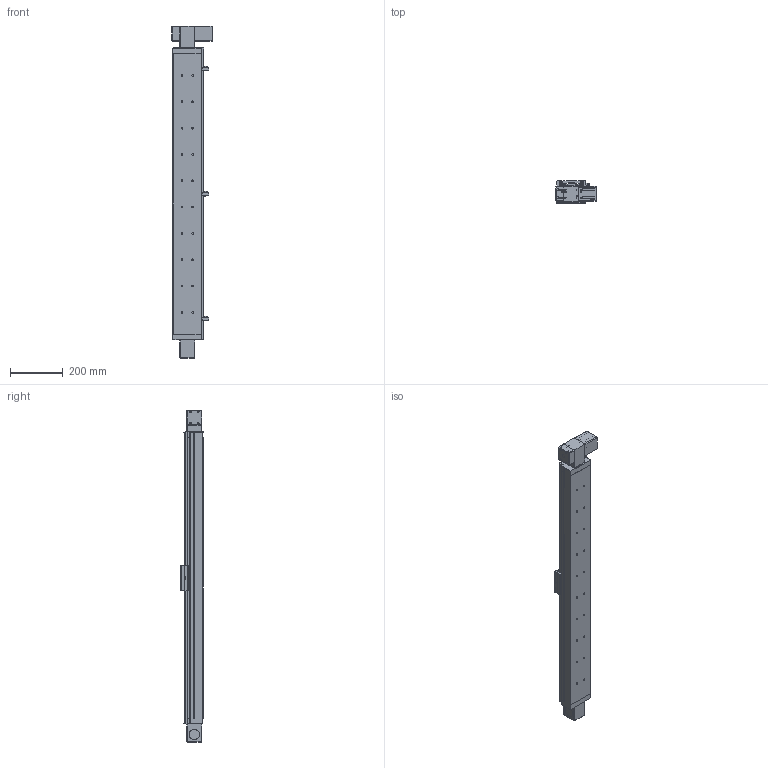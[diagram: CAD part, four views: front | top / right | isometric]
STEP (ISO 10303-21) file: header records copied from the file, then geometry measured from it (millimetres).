
FILE_DESCRIPTION((''),'2;1');
FILE_NAME('E:\uia actuator\UIA actuator 3d- 2015\Belt drive actuator\UIA110BR12(15)DC\UIA110BR12(15)DC-STEP FILE\UIA110BR12(15) stp file 13May16\UIA110BR12(15)DC-950-M23-P13-C10-S.stp','2016-05-13T16:18:23',('h029'),(''),'Autodesk Inventor 11','Autodesk Inventor 11','');
FILE_SCHEMA(('AUTOMOTIVE_DESIGN { 1 0 10303 214 1 1 1 1 }'));
Length unit declared in the file: millimetre
Products named in the file (11): UIA110BR12(15)DC-950; UIA110BR12(15)DC-950-body; UIA110BR12(15)DC-950-Sensor rail; UIA110B-Carriage; UIA110B- Sensor Flag; UIA110B-Cover; SOH-32C; SOH-32C-3; SOH-32C-1; SOH-32C-2; Motor mount
Assembly tree (10 placements, depth 3):
  UIA110BR12(15)DC-950
    UIA110BR12(15)DC-950-body
    UIA110BR12(15)DC-950-Sensor rail
    UIA110B-Carriage
    UIA110B- Sensor Flag
    UIA110B-Cover
    SOH-32C
      SOH-32C-3
      SOH-32C-1
      SOH-32C-2
    Motor mount
Bounding box: 152 x 84.2 x 1261 mm (x, y, z)
Volume: 3832307 mm3; surface area: 1099176.4 mm2
Topology: 9 solids, 13 shells, 756 faces, 2122 edges, 1360 vertices
Faces by surface type: plane 471, cylinder 195, cone 42, bspline 40, sphere 8
Full cylindrical faces by diameter (mm): 2.459 x4, 3 x2, 3.242 x8, 3.5 x4, 4 x10, 4.5 x4, 4.917 x8, 5 x2, 6.35 x1, 6.5 x20, 7.5 x4, 10 x3, 11 x20, 12 x1, 20 x2, 32 x3, 37 x1, 38.1 x1, 39 x2, 43.5 x1, 46 x2
Entity records: 25258 total; most frequent: CARTESIAN_POINT 6397, DIRECTION 3855, ORIENTED_EDGE 3678, EDGE_CURVE 1839, AXIS2_PLACEMENT_3D 1324, VERTEX_POINT 1264, VECTOR 1207, LINE 1207
